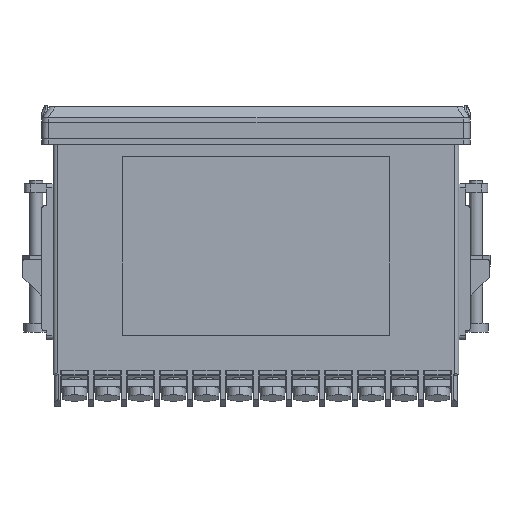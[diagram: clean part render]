
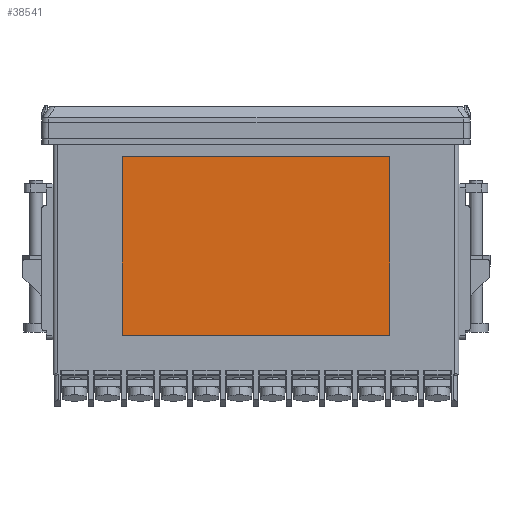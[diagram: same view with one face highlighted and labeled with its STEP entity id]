
A CAD part, left-side view. The second image highlights one B-rep face of the part: STEP entity #38541.
In plain terms, the highlighted planar face has unit normal (-1, 0, 0).
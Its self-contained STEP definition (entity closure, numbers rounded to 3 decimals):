
#1600 = EDGE_LOOP ( 'NONE', ( #7107, #14569, #60101, #50813 ) ) ;
#2976 = CARTESIAN_POINT ( 'NONE',  ( -45.25, -30., -44. ) ) ;
#4202 = VECTOR ( 'NONE', #30754, 1000. ) ;
#5388 = VERTEX_POINT ( 'NONE', #13921 ) ;
#5431 = DIRECTION ( 'NONE',  ( 0., 0., -1. ) ) ;
#7107 = ORIENTED_EDGE ( 'NONE', *, *, #64033, .T. ) ;
#10736 = CARTESIAN_POINT ( 'NONE',  ( -45.25, 30., -44. ) ) ;
#11393 = FACE_OUTER_BOUND ( 'NONE', #1600, .T. ) ;
#13921 = CARTESIAN_POINT ( 'NONE',  ( -45.25, -30., -4. ) ) ;
#14569 = ORIENTED_EDGE ( 'NONE', *, *, #60332, .T. ) ;
#19742 = VERTEX_POINT ( 'NONE', #26415 ) ;
#19765 = PLANE ( 'NONE',  #39618 ) ;
#21467 = EDGE_CURVE ( 'NONE', #24970, #5388, #67851, .T. ) ;
#21598 = CARTESIAN_POINT ( 'NONE',  ( -45.25, 30., -44. ) ) ;
#24970 = VERTEX_POINT ( 'NONE', #2976 ) ;
#24987 = CARTESIAN_POINT ( 'NONE',  ( -45.25, 0., 0. ) ) ;
#25212 = DIRECTION ( 'NONE',  ( 1., 0., 0. ) ) ;
#26415 = CARTESIAN_POINT ( 'NONE',  ( -45.25, 30., -4. ) ) ;
#27371 = LINE ( 'NONE', #21598, #54570 ) ;
#30754 = DIRECTION ( 'NONE',  ( 0., -1., 0. ) ) ;
#33931 = VERTEX_POINT ( 'NONE', #10736 ) ;
#38541 = ADVANCED_FACE ( 'NONE', ( #11393 ), #19765, .F. ) ;
#39618 = AXIS2_PLACEMENT_3D ( 'NONE', #24987, #25212, #63249 ) ;
#41130 = LINE ( 'NONE', #65122, #53854 ) ;
#46350 = CARTESIAN_POINT ( 'NONE',  ( -45.25, -30., -44. ) ) ;
#50813 = ORIENTED_EDGE ( 'NONE', *, *, #21467, .T. ) ;
#53854 = VECTOR ( 'NONE', #70578, 1000. ) ;
#54570 = VECTOR ( 'NONE', #5431, 1000. ) ;
#55087 = VECTOR ( 'NONE', #63263, 1000. ) ;
#58647 = LINE ( 'NONE', #63342, #4202 ) ;
#60101 = ORIENTED_EDGE ( 'NONE', *, *, #69862, .T. ) ;
#60332 = EDGE_CURVE ( 'NONE', #19742, #33931, #27371, .T. ) ;
#63249 = DIRECTION ( 'NONE',  ( 0., 0., -1. ) ) ;
#63263 = DIRECTION ( 'NONE',  ( 0., 0., 1. ) ) ;
#63342 = CARTESIAN_POINT ( 'NONE',  ( -45.25, -30., -44. ) ) ;
#64033 = EDGE_CURVE ( 'NONE', #5388, #19742, #41130, .T. ) ;
#65122 = CARTESIAN_POINT ( 'NONE',  ( -45.25, -30., -4. ) ) ;
#67851 = LINE ( 'NONE', #46350, #55087 ) ;
#69862 = EDGE_CURVE ( 'NONE', #33931, #24970, #58647, .T. ) ;
#70578 = DIRECTION ( 'NONE',  ( 0., 1., 0. ) ) ;
